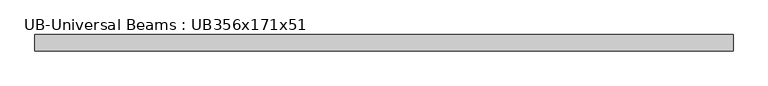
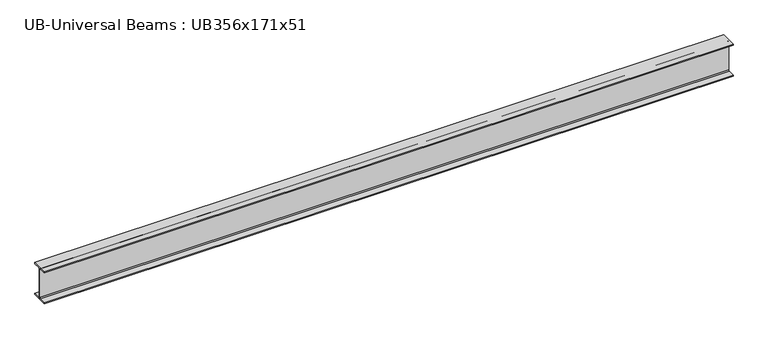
"""IFC4 building model written with IfcOpenShell, lengths in millimetres: beam geometry, UB-Universal Beams : UB356x171x51."""

from ifc_helpers import new_model, si_unit, point, frame, frame_2d, origin, place, context, project, spatial, polyline, circle_curve, trimmed, segment, composite_curve, outline, extrude, source, transform, mapped, element, save


def ub_universal_beams_ub356x171x51_8a345439(model_context):
    return source(origin(), model_context, "Body", "SweptSolid", [
        extrude(outline(composite_curve([segment(polyline([(85.75, -166.0), (85.75, -177.5), (-85.75, -177.5), (-85.75, -166.0), (-13.9, -166.0)]), True, "CONTINUOUS"), segment(trimmed(circle_curve(frame_2d((-13.9, -155.8)), 10.2), [point((-13.9, -166.0))], [point((-3.7, -155.8))], True, "CARTESIAN"), True, "CONTINUOUS"), segment(polyline([(-3.7, -155.8), (-3.7, 155.8)]), True, "CONTINUOUS"), segment(trimmed(circle_curve(frame_2d((-13.9, 155.8)), 10.2), [point((-3.7, 155.8))], [point((-13.9, 166.0))], True, "CARTESIAN"), True, "CONTINUOUS"), segment(polyline([(-13.9, 166.0), (-85.75, 166.0), (-85.75, 177.5), (85.75, 177.5), (85.75, 166.0), (13.9, 166.0)]), True, "CONTINUOUS"), segment(trimmed(circle_curve(frame_2d((13.9, 155.8)), 10.2), [point((13.9, 166.0))], [point((3.7, 155.8))], True, "CARTESIAN"), True, "CONTINUOUS"), segment(polyline([(3.7, 155.8), (3.7, -155.8)]), True, "CONTINUOUS"), segment(trimmed(circle_curve(frame_2d((13.9, -155.8)), 10.2), [point((3.7, -155.8))], [point((13.9, -166.0))], True, "CARTESIAN"), True, "CONTINUOUS"), segment(polyline([(13.9, -166.0), (85.75, -166.0)]), True, "CONTINUOUS")], self_intersect=False)), frame((-3584.6, 0.0, 0.0), z_axis=(1.0, 0.0, 0.0), x_axis=(0.0, 1.0, 0.0)), (0.0, 0.0, 1.0), 7227.9),
    ])


if __name__ == "__main__":
    model = new_model("IFC4")
    model_context = context("Model", 3, world=origin())
    ifc_project = project(units=[si_unit("LENGTHUNIT", "METRE", prefix="MILLI")], contexts=[model_context])
    site = spatial("IfcSite", under=ifc_project)
    building = spatial("IfcBuilding", under=site)
    placement = place(None, origin())
    ub_universal_beams_ub356x171x51_shape = ub_universal_beams_ub356x171x51_8a345439(model_context)
    element("IfcBeam", 1, ObjectType="UB-Universal Beams : UB356x171x51", at=placement, inside=building, context=model_context, shape_type="MappedRepresentation", body=[
        mapped(ub_universal_beams_ub356x171x51_shape, transform((0.0, 0.0, 0.0), x_axis=(1.0, 0.0, 0.0), y_axis=(0.0, 1.0, 0.0), z_axis=(0.0, 0.0, 1.0))),
    ])
    save(model, "model.ifc")
